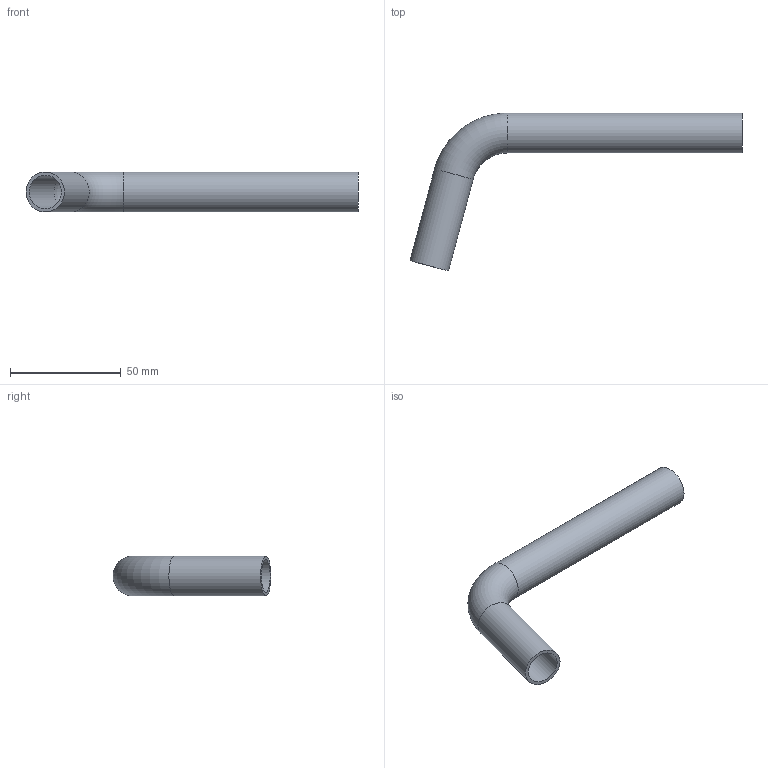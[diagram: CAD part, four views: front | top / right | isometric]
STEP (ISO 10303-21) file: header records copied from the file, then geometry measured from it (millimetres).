
FILE_DESCRIPTION((''),'2;1');
FILE_NAME('G:\Technics\CAD\Bauteile\018\6904518(1).stp','2008-01-31T09:28:45',('herberg'),(''),'Autodesk Inventor 2008','Autodesk Inventor 2008','');
FILE_SCHEMA(('AUTOMOTIVE_DESIGN { 1 0 10303 214 1 1 1 1 }'));
Length unit declared in the file: millimetre
Products named in the file (1): 6904518(1)
Bounding box: 149.74 x 71.22 x 18 mm (x, y, z)
Volume: 14101.4 mm3; surface area: 18957.4 mm2
Topology: 1 solids, 1 shells, 8 faces, 14 edges, 8 vertices
Faces by surface type: cylinder 4, torus 2, plane 2
Full cylindrical faces by diameter (mm): 15 x2, 18 x2
Entity records: 194 total; most frequent: DIRECTION 34, CARTESIAN_POINT 25, AXIS2_PLACEMENT_3D 17, ORIENTED_EDGE 16, EDGE_LOOP 16, VERTEX_POINT 8, CIRCLE 8, EDGE_CURVE 8
